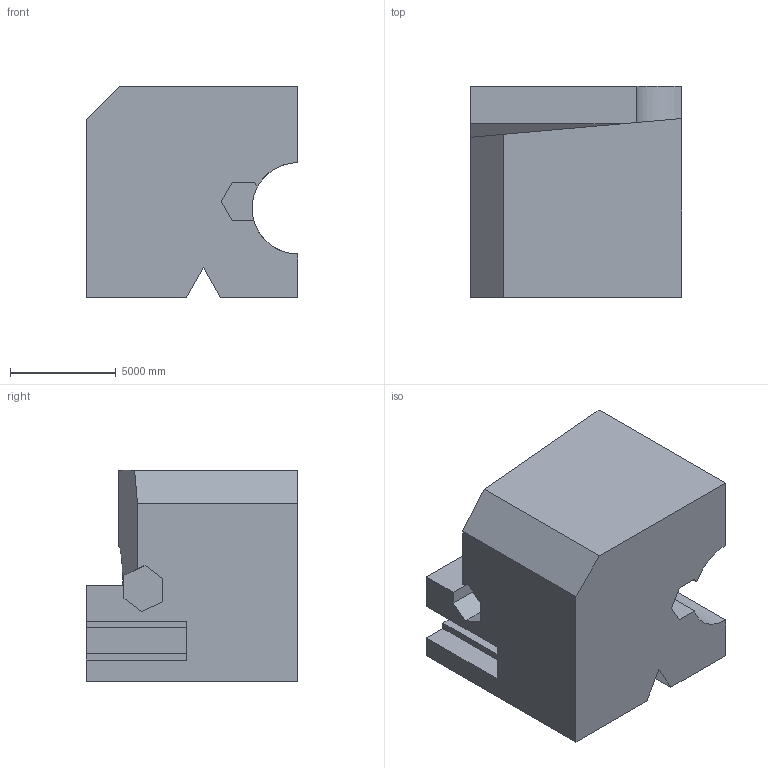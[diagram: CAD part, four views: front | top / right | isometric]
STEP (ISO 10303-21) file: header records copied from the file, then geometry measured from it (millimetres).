
FILE_DESCRIPTION (( 'STEP AP203' ), '1' );
FILE_NAME ('341.STEP', '2022-09-07T13:00:45', ( 'user' ), ( '' ), 'SwSTEP 2.0', 'SolidWorks 2021', '' );
FILE_SCHEMA (( 'CONFIG_CONTROL_DESIGN' ));
Length unit declared in the file: centimetre
Products named in the file (1): 341
Bounding box: 10000 x 10000 x 10000 mm (x, y, z)
Volume: 746803694279.3 mm3; surface area: 674672989.3 mm2
Topology: 1 solids, 1 shells, 37 faces, 105 edges, 70 vertices
Faces by surface type: plane 36, cylinder 1
Entity records: 1260 total; most frequent: CARTESIAN_POINT 216, ORIENTED_EDGE 210, DIRECTION 184, EDGE_CURVE 105, LINE 100, VECTOR 100, VERTEX_POINT 70, AXIS2_PLACEMENT_3D 42
